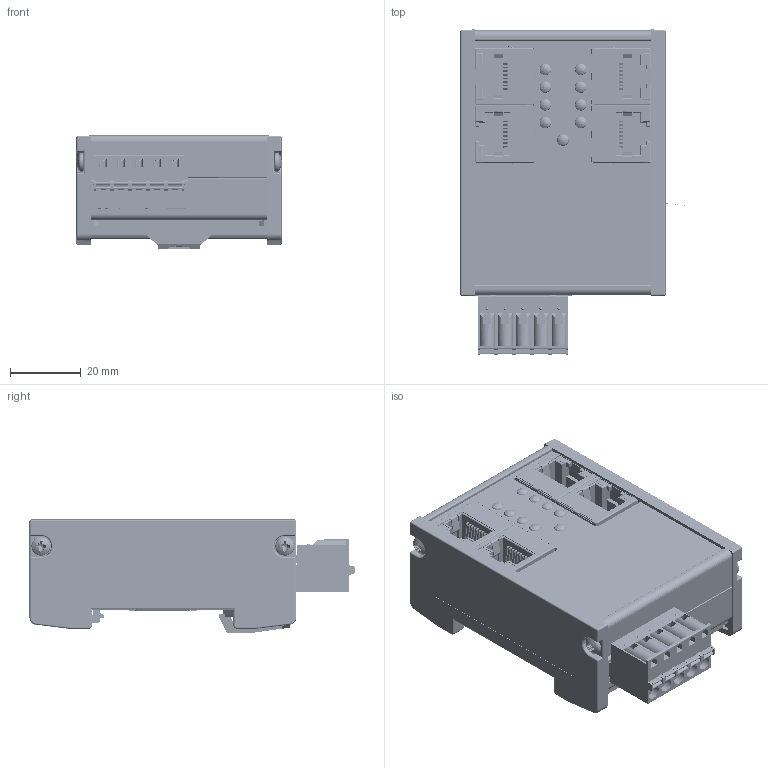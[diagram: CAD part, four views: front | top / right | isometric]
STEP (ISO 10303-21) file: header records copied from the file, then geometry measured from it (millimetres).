
FILE_DESCRIPTION (( 'STEP AP214' ), '1' );
FILE_NAME ('700-160-3EN02_V00-00.STEP', '2020-04-23T08:02:02', ( '' ), ( '' ), 'SwSTEP 2.0', 'SolidWorks 2020', '' );
FILE_SCHEMA (( 'AUTOMOTIVE_DESIGN' ));
Length unit declared in the file: millimetre
Products named in the file (11): SchraubefürHutschienenclip; 7094V00-Single; g-alu-001 V01-03_RAL 6034 ; ps-alu-193_V00-20_700-153-3PN01; x005-1-s-0p V 00-00; m-k30x08-bj V 00-10; g-alu-083_V00-20_cutout for 5.08 grid; 700-160-3EN02_V00-00; 7039V02-Single; g-alu-002_V00-00_RAL 6034; PLP2-xxx_PLP2-7MM
Assembly tree (22 placements, depth 2):
  700-160-3EN02_V00-00
    7094V00-Single
    7039V02-Single
    g-alu-083_V00-20_cutout for 5.08 grid
    ps-alu-193_V00-20_700-153-3PN01
    g-alu-002_V00-00_RAL 6034
    SchraubefürHutschienenclip
    PLP2-xxx_PLP2-7MM  x9
    x005-1-s-0p V 00-00
    g-alu-001 V01-03_RAL 6034   x2
    m-k30x08-bj V 00-10  x4
Bounding box: 65.35 x 91.93 x 31.98 mm (x, y, z)
Volume: 41608.1 mm3; surface area: 84440.1 mm2
Topology: 130 solids, 807 shells, 23668 faces, 60341 edges, 37985 vertices
Faces by surface type: plane 15615, bspline 3849, cylinder 3836, cone 196, sphere 150, torus 22
Entity records: 1064956 total; most frequent: CARTESIAN_POINT 282905, ORIENTED_EDGE 115364, DIRECTION 97403, EDGE_CURVE 57728, LINE 43791, VECTOR 43791, VERTEX_POINT 36962, AXIS2_PLACEMENT_3D 26806
